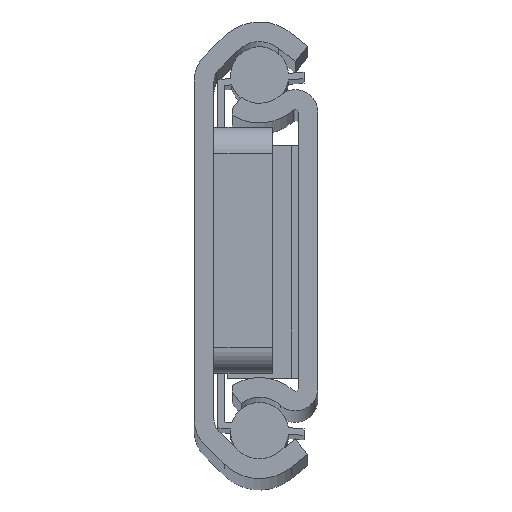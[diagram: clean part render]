
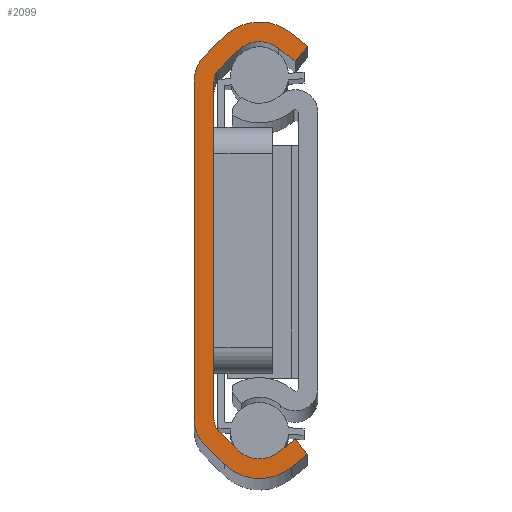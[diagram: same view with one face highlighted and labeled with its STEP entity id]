
A CAD part, top view. The second image highlights one B-rep face of the part: STEP entity #2099.
In plain terms, the highlighted planar face has unit normal (0, 0, 1).
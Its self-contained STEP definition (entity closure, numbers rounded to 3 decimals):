
#38=PLANE('',#2255);
#100=LINE('',#3112,#293);
#103=LINE('',#3118,#296);
#107=LINE('',#3130,#300);
#111=LINE('',#3142,#304);
#115=LINE('',#3154,#308);
#119=LINE('',#3166,#312);
#122=LINE('',#3172,#315);
#125=LINE('',#3178,#318);
#129=LINE('',#3190,#322);
#133=LINE('',#3202,#326);
#137=LINE('',#3214,#330);
#141=LINE('',#3224,#334);
#293=VECTOR('',#2496,1.52);
#296=VECTOR('',#2501,1.611);
#300=VECTOR('',#2513,2.058);
#304=VECTOR('',#2525,26.15);
#308=VECTOR('',#2537,2.058);
#312=VECTOR('',#2549,1.612);
#315=VECTOR('',#2554,1.52);
#318=VECTOR('',#2559,1.618);
#322=VECTOR('',#2571,2.058);
#326=VECTOR('',#2583,26.15);
#330=VECTOR('',#2595,2.058);
#334=VECTOR('',#2607,1.612);
#564=FACE_OUTER_BOUND('',#701,.T.);
#701=EDGE_LOOP('',(#1577,#1578,#1579,#1580,#1581,#1582,#1583,#1584,#1585,
#1586,#1587,#1588,#1589,#1590,#1591,#1592,#1593,#1594,#1595,#1596));
#835=CIRCLE('',#2223,3.905);
#837=CIRCLE('',#2227,2.824);
#839=CIRCLE('',#2231,2.824);
#841=CIRCLE('',#2235,3.905);
#843=CIRCLE('',#2241,2.381);
#845=CIRCLE('',#2245,1.3);
#847=CIRCLE('',#2249,1.3);
#849=CIRCLE('',#2253,2.381);
#946=VERTEX_POINT('',#3109);
#947=VERTEX_POINT('',#3111);
#949=VERTEX_POINT('',#3117);
#951=VERTEX_POINT('',#3123);
#953=VERTEX_POINT('',#3129);
#955=VERTEX_POINT('',#3135);
#957=VERTEX_POINT('',#3141);
#959=VERTEX_POINT('',#3147);
#961=VERTEX_POINT('',#3153);
#963=VERTEX_POINT('',#3159);
#965=VERTEX_POINT('',#3165);
#967=VERTEX_POINT('',#3171);
#969=VERTEX_POINT('',#3177);
#971=VERTEX_POINT('',#3183);
#973=VERTEX_POINT('',#3189);
#975=VERTEX_POINT('',#3195);
#977=VERTEX_POINT('',#3201);
#979=VERTEX_POINT('',#3207);
#981=VERTEX_POINT('',#3213);
#983=VERTEX_POINT('',#3219);
#1162=EDGE_CURVE('',#947,#946,#100,.T.);
#1165=EDGE_CURVE('',#949,#947,#103,.T.);
#1168=EDGE_CURVE('',#951,#949,#835,.T.);
#1171=EDGE_CURVE('',#953,#951,#107,.T.);
#1174=EDGE_CURVE('',#955,#953,#837,.T.);
#1177=EDGE_CURVE('',#957,#955,#111,.T.);
#1180=EDGE_CURVE('',#959,#957,#839,.T.);
#1183=EDGE_CURVE('',#961,#959,#115,.T.);
#1186=EDGE_CURVE('',#963,#961,#841,.T.);
#1189=EDGE_CURVE('',#965,#963,#119,.T.);
#1192=EDGE_CURVE('',#967,#965,#122,.T.);
#1195=EDGE_CURVE('',#969,#967,#125,.T.);
#1198=EDGE_CURVE('',#971,#969,#843,.T.);
#1201=EDGE_CURVE('',#973,#971,#129,.T.);
#1204=EDGE_CURVE('',#975,#973,#845,.T.);
#1207=EDGE_CURVE('',#977,#975,#133,.T.);
#1210=EDGE_CURVE('',#979,#977,#847,.T.);
#1213=EDGE_CURVE('',#981,#979,#137,.T.);
#1216=EDGE_CURVE('',#983,#981,#849,.T.);
#1219=EDGE_CURVE('',#946,#983,#141,.T.);
#1577=ORIENTED_EDGE('',*,*,#1219,.T.);
#1578=ORIENTED_EDGE('',*,*,#1216,.T.);
#1579=ORIENTED_EDGE('',*,*,#1213,.T.);
#1580=ORIENTED_EDGE('',*,*,#1210,.T.);
#1581=ORIENTED_EDGE('',*,*,#1207,.T.);
#1582=ORIENTED_EDGE('',*,*,#1204,.T.);
#1583=ORIENTED_EDGE('',*,*,#1201,.T.);
#1584=ORIENTED_EDGE('',*,*,#1198,.T.);
#1585=ORIENTED_EDGE('',*,*,#1195,.T.);
#1586=ORIENTED_EDGE('',*,*,#1192,.T.);
#1587=ORIENTED_EDGE('',*,*,#1189,.T.);
#1588=ORIENTED_EDGE('',*,*,#1186,.T.);
#1589=ORIENTED_EDGE('',*,*,#1183,.T.);
#1590=ORIENTED_EDGE('',*,*,#1180,.T.);
#1591=ORIENTED_EDGE('',*,*,#1177,.T.);
#1592=ORIENTED_EDGE('',*,*,#1174,.T.);
#1593=ORIENTED_EDGE('',*,*,#1171,.T.);
#1594=ORIENTED_EDGE('',*,*,#1168,.T.);
#1595=ORIENTED_EDGE('',*,*,#1165,.T.);
#1596=ORIENTED_EDGE('',*,*,#1162,.T.);
#2099=ADVANCED_FACE('',(#564),#38,.T.);
#2223=AXIS2_PLACEMENT_3D('',#3124,#2507,#2508);
#2227=AXIS2_PLACEMENT_3D('',#3136,#2519,#2520);
#2231=AXIS2_PLACEMENT_3D('',#3148,#2531,#2532);
#2235=AXIS2_PLACEMENT_3D('',#3160,#2543,#2544);
#2241=AXIS2_PLACEMENT_3D('',#3184,#2565,#2566);
#2245=AXIS2_PLACEMENT_3D('',#3196,#2577,#2578);
#2249=AXIS2_PLACEMENT_3D('',#3208,#2589,#2590);
#2253=AXIS2_PLACEMENT_3D('',#3220,#2601,#2602);
#2255=AXIS2_PLACEMENT_3D('',#3225,#2608,#2609);
#2496=DIRECTION('',(-0.629,0.777,0.));
#2501=DIRECTION('',(0.777,0.629,0.));
#2507=DIRECTION('center_axis',(0.,0.,1.));
#2508=DIRECTION('ref_axis',(-0.7,-0.714,0.));
#2513=DIRECTION('',(0.714,-0.7,0.));
#2519=DIRECTION('center_axis',(0.,0.,1.));
#2520=DIRECTION('ref_axis',(-1.,0.,0.));
#2525=DIRECTION('',(0.,-1.,0.));
#2531=DIRECTION('center_axis',(0.,0.,1.));
#2532=DIRECTION('ref_axis',(-0.7,0.714,0.));
#2537=DIRECTION('',(-0.714,-0.7,0.));
#2543=DIRECTION('center_axis',(0.,0.,1.));
#2544=DIRECTION('ref_axis',(0.629,0.777,0.));
#2549=DIRECTION('',(-0.777,0.629,0.));
#2554=DIRECTION('',(0.629,0.777,0.));
#2559=DIRECTION('',(0.779,-0.627,0.));
#2565=DIRECTION('center_axis',(0.,0.,-1.));
#2566=DIRECTION('ref_axis',(-0.627,-0.779,0.));
#2571=DIRECTION('',(0.714,0.7,0.));
#2577=DIRECTION('center_axis',(0.,0.,-1.));
#2578=DIRECTION('ref_axis',(0.7,-0.714,0.));
#2583=DIRECTION('',(0.,1.,0.));
#2589=DIRECTION('center_axis',(0.,0.,-1.));
#2590=DIRECTION('ref_axis',(1.,0.,0.));
#2595=DIRECTION('',(-0.714,0.7,0.));
#2601=DIRECTION('center_axis',(0.,0.,-1.));
#2602=DIRECTION('ref_axis',(0.7,0.714,0.));
#2607=DIRECTION('',(-0.779,-0.627,0.));
#2608=DIRECTION('center_axis',(0.,0.,1.));
#2609=DIRECTION('ref_axis',(1.,0.,0.));
#3109=CARTESIAN_POINT('',(7.804,-14.585,508.));
#3111=CARTESIAN_POINT('',(8.76,-15.765,508.));
#3112=CARTESIAN_POINT('',(8.76,-15.765,508.));
#3117=CARTESIAN_POINT('',(7.508,-16.78,508.));
#3118=CARTESIAN_POINT('',(7.508,-16.78,508.));
#3123=CARTESIAN_POINT('',(2.315,-16.532,508.));
#3124=CARTESIAN_POINT('Origin',(5.05,-13.745,508.));
#3129=CARTESIAN_POINT('',(0.846,-15.09,508.));
#3130=CARTESIAN_POINT('',(0.846,-15.09,508.));
#3135=CARTESIAN_POINT('',(0.,-13.075,508.));
#3136=CARTESIAN_POINT('Origin',(2.824,-13.075,508.));
#3141=CARTESIAN_POINT('',(0.,13.075,508.));
#3142=CARTESIAN_POINT('',(0.,13.075,508.));
#3147=CARTESIAN_POINT('',(0.846,15.091,508.));
#3148=CARTESIAN_POINT('Origin',(2.824,13.075,508.));
#3153=CARTESIAN_POINT('',(2.315,16.532,508.));
#3154=CARTESIAN_POINT('',(2.315,16.532,508.));
#3159=CARTESIAN_POINT('',(7.507,16.78,508.));
#3160=CARTESIAN_POINT('Origin',(5.05,13.745,508.));
#3165=CARTESIAN_POINT('',(8.76,15.766,508.));
#3166=CARTESIAN_POINT('',(8.76,15.766,508.));
#3171=CARTESIAN_POINT('',(7.804,14.585,508.));
#3172=CARTESIAN_POINT('',(7.804,14.585,508.));
#3177=CARTESIAN_POINT('',(6.543,15.6,508.));
#3178=CARTESIAN_POINT('',(6.543,15.6,508.));
#3183=CARTESIAN_POINT('',(3.382,15.444,508.));
#3184=CARTESIAN_POINT('Origin',(5.05,13.745,508.));
#3189=CARTESIAN_POINT('',(1.914,14.003,508.));
#3190=CARTESIAN_POINT('',(1.914,14.003,508.));
#3195=CARTESIAN_POINT('',(1.524,13.075,508.));
#3196=CARTESIAN_POINT('Origin',(2.824,13.075,508.));
#3201=CARTESIAN_POINT('',(1.524,-13.075,508.));
#3202=CARTESIAN_POINT('',(1.524,-13.075,508.));
#3207=CARTESIAN_POINT('',(1.914,-14.003,508.));
#3208=CARTESIAN_POINT('Origin',(2.824,-13.075,508.));
#3213=CARTESIAN_POINT('',(3.382,-15.444,508.));
#3214=CARTESIAN_POINT('',(3.382,-15.444,508.));
#3219=CARTESIAN_POINT('',(6.548,-15.595,508.));
#3220=CARTESIAN_POINT('Origin',(5.05,-13.745,508.));
#3224=CARTESIAN_POINT('',(7.804,-14.585,508.));
#3225=CARTESIAN_POINT('Origin',(2.286,0.,508.));
